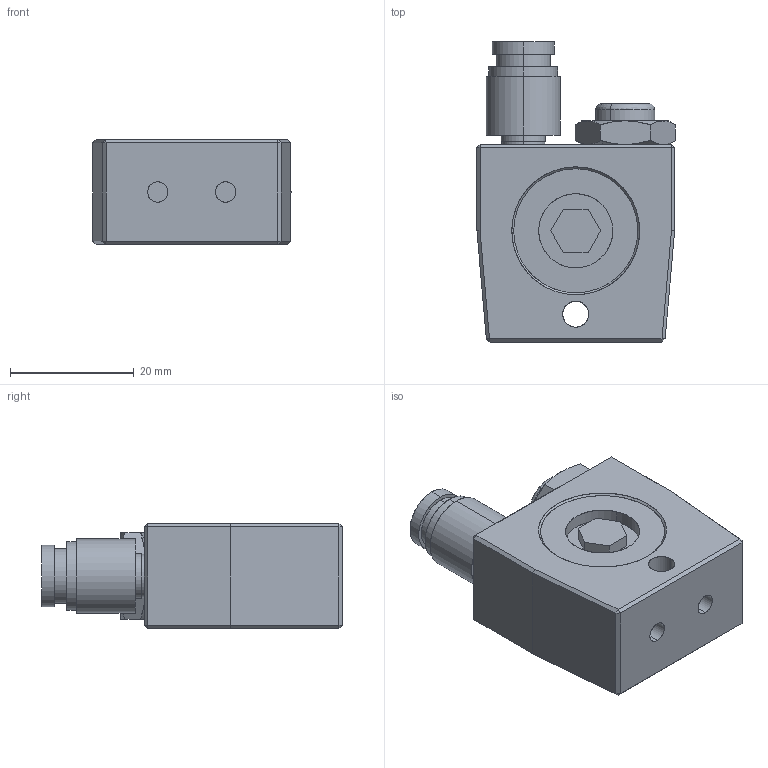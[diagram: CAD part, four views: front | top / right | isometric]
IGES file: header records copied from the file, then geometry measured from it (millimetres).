
Start section: SolidWorks IGES file using analytic representation for surfaces
Global section: file name: V:\WORK\08133\HP 悺朄恾\turbine\BTP18\IGS_STEP僼傽僀儖\test_E63000A-000 BTP18_defeature.IGS; native system: SolidWorks 2018; preprocessor: SolidWorks 2018; author: n-udagawa; date: 230222.144647; units: millimetre
Bounding box: 32.08 x 48.6 x 17 mm (x, y, z)
Surface area: 5891 mm2 (no closed solid volume)
Topology: 0 solids, 0 shells, 115 faces, 1996 edges, 2234 vertices
Faces by surface type: bspline 65, revolution 50
